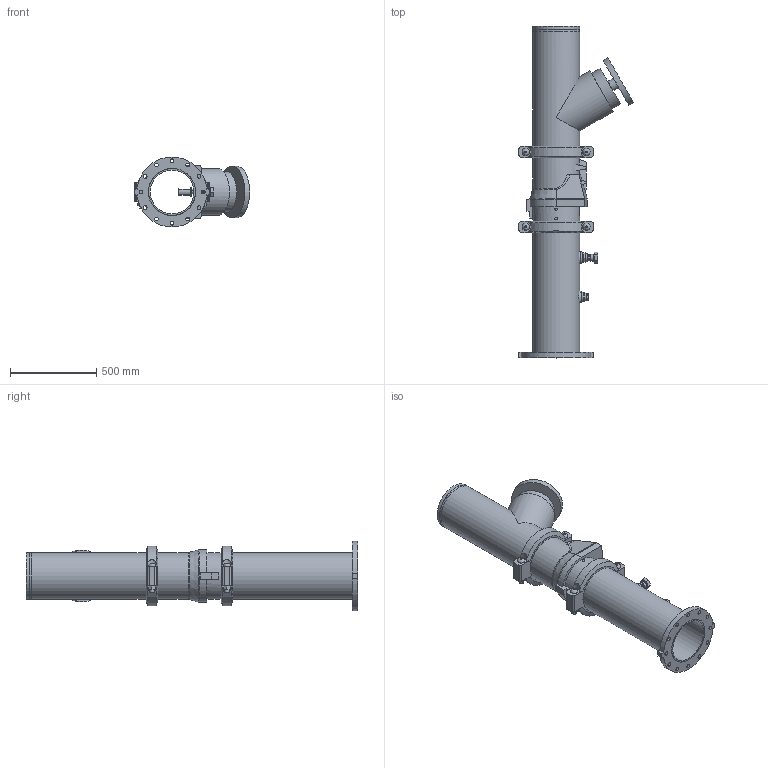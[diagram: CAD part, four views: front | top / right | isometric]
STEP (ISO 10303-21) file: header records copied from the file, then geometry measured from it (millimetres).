
FILE_DESCRIPTION(/* description */ ('VIC DVI PUMP DROP VERT S/383 (OGSxFLG) (S/924-1.25)','CAx-IF Rec.Pracs.---Representation and Presentation of Product Manufacturing Information (PMI)---4.0---2014-10-13'),/* implementation_level */ '2;1');
FILE_NAME(/* name */ 'C:\Users\Public\Documents\Victaulic.Temp\A849\Victaulic_IPS_Vertical DVI_CL 150_Series 383 (OGSxFLG)_924 (1.25)_10.0x10.0 (250x250).stp',/* time_stamp */ '2022-07-25T11:42:24+02:00',/* author */ ('Vjadhav'),/* organization */ ('Victaulic'),/* preprocessor_version */ 'ST-DEVELOPER v18',/* originating_system */ 'Autodesk Inventor 2020',/* authorisation */ '');
FILE_SCHEMA (('AP242_MANAGED_MODEL_BASED_3D_ENGINEERING_MIM_LF { 1 0 10303 442 1 1 4 }'));
Length unit declared in the file: inch
Products named in the file (8): 383_924 (1.25)-10.0x10.0; 741-10.0; Pipe-10.0x10.0; 789-10.0; 779-10.0; 924-10.0x01.25; 923-10.0x0.75; 077-10.0
Assembly tree (8 placements, depth 2):
  383_924 (1.25)-10.0x10.0
    741-10.0
    Pipe-10.0x10.0
    789-10.0
    779-10.0
    924-10.0x01.25
    923-10.0x0.75
    077-10.0  x2
Bounding box: 669.92 x 1928.88 x 406.4 mm (x, y, z)
Volume: 41808955.8 mm3; surface area: 4602926.1 mm2
Topology: 8 solids, 13 shells, 379 faces, 947 edges, 647 vertices
Faces by surface type: plane 229, cylinder 125, cone 13, torus 6, bspline 6
Full cylindrical faces by diameter (mm): 13.716 x4, 21.336 x2, 22.225 x12, 25.4 x8, 26.67 x2, 27.432 x4, 38.608 x1, 42.164 x1, 45.974 x4, 48.514 x1, 55.626 x2, 60.96 x1, 76.2 x1, 237.49 x1, 254.508 x3, 264.16 x2, 268.275 x6, 273.05 x16, 299.974 x1
Entity records: 10825 total; most frequent: CARTESIAN_POINT 2127, DIRECTION 1774, ORIENTED_EDGE 1604, EDGE_CURVE 802, AXIS2_PLACEMENT_3D 672, VERTEX_POINT 549, LINE 430, VECTOR 430
